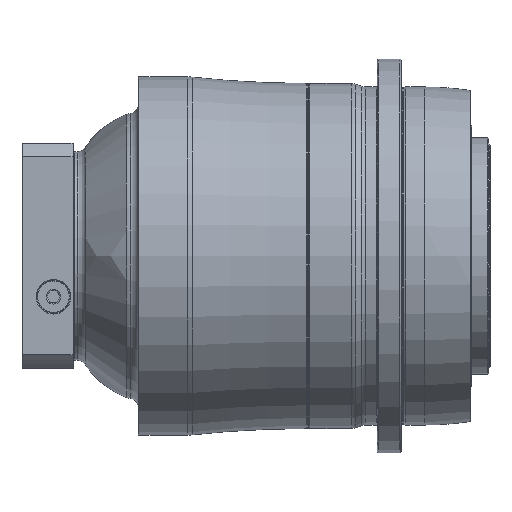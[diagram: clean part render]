
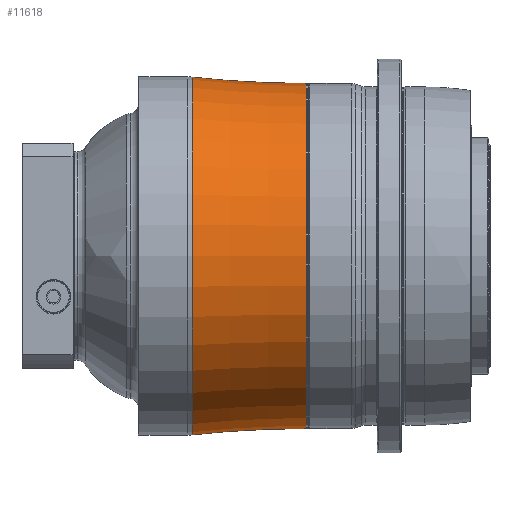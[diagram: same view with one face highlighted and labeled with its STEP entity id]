
A CAD part, top view. The second image highlights one B-rep face of the part: STEP entity #11618.
In plain terms, the highlighted toroidal (fillet/blend) face has major radius 1021.34 mm and minor radius 875.841 mm.
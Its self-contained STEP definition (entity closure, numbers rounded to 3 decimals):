
#11100=CARTESIAN_POINT('',(-99.396,0.,0.));
#11101=DIRECTION('',(1.,0.,0.));
#11102=DIRECTION('',(0.,1.,0.));
#11103=AXIS2_PLACEMENT_3D('',#11100,#11101,#11102);
#11105=CARTESIAN_POINT('',(-195.5,0.,0.));
#11106=DIRECTION('',(1.,0.,0.));
#11107=DIRECTION('',(0.,1.,0.));
#11108=AXIS2_PLACEMENT_3D('',#11105,#11106,#11107);
#11115=CARTESIAN_POINT('',(-195.5,1021.341,0.));
#11116=DIRECTION('',(0.,0.,1.));
#11117=DIRECTION('',(0.,-1.,0.));
#11118=AXIS2_PLACEMENT_3D('',#11115,#11116,#11117);
#11125=CARTESIAN_POINT('',(-195.5,-1021.341,0.));
#11126=DIRECTION('',(0.,0.,-1.));
#11127=DIRECTION('',(0.,1.,0.));
#11128=AXIS2_PLACEMENT_3D('',#11125,#11126,#11127);
#11184=CARTESIAN_POINT('',(-195.5,145.5,0.));
#11185=VERTEX_POINT('',#11184);
#11186=CARTESIAN_POINT('',(-195.5,-145.5,0.));
#11187=VERTEX_POINT('',#11186);
#11224=CARTESIAN_POINT('',(-99.396,150.789,
0.));
#11225=CARTESIAN_POINT('',(-99.396,-150.789,0.));
#11226=VERTEX_POINT('',#11224);
#11227=VERTEX_POINT('',#11225);
#11604=CARTESIAN_POINT('',(-195.5,0.,0.));
#11605=DIRECTION('',(1.,0.,0.));
#11606=DIRECTION('',(0.,-1.,0.));
#11607=AXIS2_PLACEMENT_3D('',#11604,#11605,#11606);
#11608=TOROIDAL_SURFACE('',#11607,1021.341,875.841);
#11609=ORIENTED_EDGE('',*,*,#11598,.T.);
#11611=ORIENTED_EDGE('',*,*,#11610,.F.);
#11613=ORIENTED_EDGE('',*,*,#11612,.F.);
#11615=ORIENTED_EDGE('',*,*,#11614,.T.);
#11616=EDGE_LOOP('',(#11609,#11611,#11613,#11615));
#11617=FACE_OUTER_BOUND('',#11616,.F.);
#11618=ADVANCED_FACE('',(#11617),#11608,.F.);
#11104=CIRCLE('',#11103,150.789);
#11109=CIRCLE('',#11108,145.5);
#11119=CIRCLE('',#11118,875.841);
#11129=CIRCLE('',#11128,875.841);
#11598=EDGE_CURVE('',#11226,#11227,#11104,.T.);
#11610=EDGE_CURVE('',#11187,#11227,#11129,.T.);
#11612=EDGE_CURVE('',#11185,#11187,#11109,.T.);
#11614=EDGE_CURVE('',#11185,#11226,#11119,.T.);
